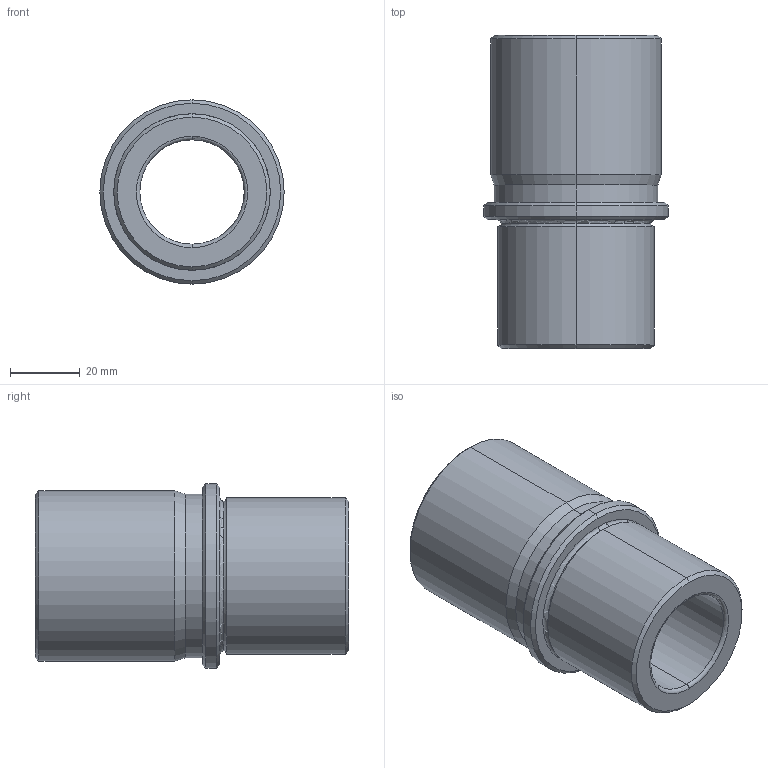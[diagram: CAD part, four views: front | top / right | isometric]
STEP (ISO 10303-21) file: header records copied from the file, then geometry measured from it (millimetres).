
FILE_DESCRIPTION(('CATIA V5 STEP Exchange'),'2;1');
FILE_NAME('C:\Users\Utente\Desktop\IO LAVORO\3D X SITO CF\X SITO\CF 450\CF 450 30x90.stp','2020-12-27T17:55:28+00:00',('none'),('none'),'CATIA Version 5 Release 20 GA (IN-10)','CATIA V5 STEP AP203','none');
FILE_SCHEMA(('CONFIG_CONTROL_DESIGN'));
Length unit declared in the file: millimetre
Products named in the file (1): CF 450 30x90
Bounding box: 53 x 90 x 53 mm (x, y, z)
Volume: 95224.6 mm3; surface area: 24763.2 mm2
Topology: 1 solids, 1 shells, 32 faces, 98 edges, 70 vertices
Faces by surface type: cylinder 10, cone 10, torus 8, plane 4
Entity records: 1236 total; most frequent: CARTESIAN_POINT 313, ORIENTED_EDGE 196, DIRECTION 154, AXIS2_PLACEMENT_3D 103, EDGE_CURVE 98, CIRCLE 70, VERTEX_POINT 70, EDGE_LOOP 36
